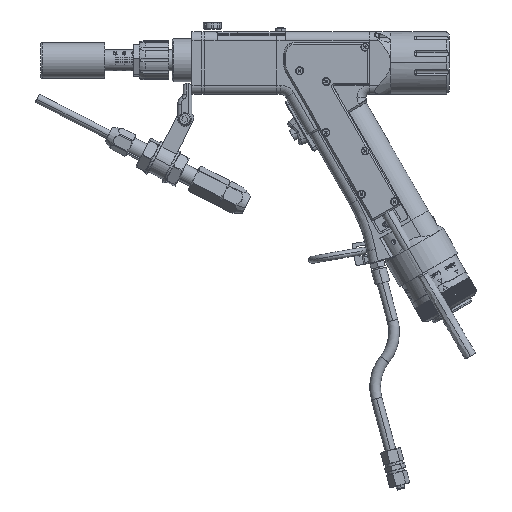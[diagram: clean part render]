
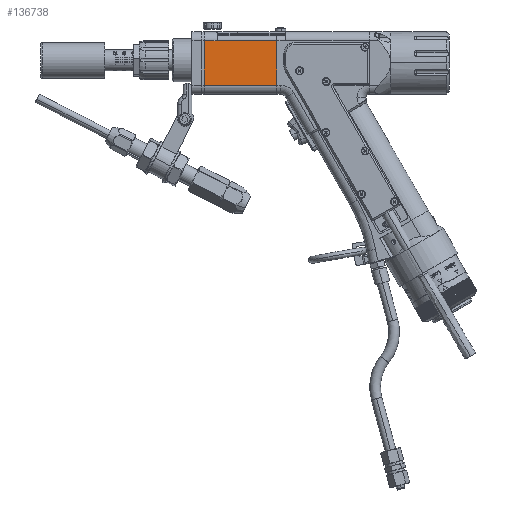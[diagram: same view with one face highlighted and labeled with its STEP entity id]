
A CAD part, top view. The second image highlights one B-rep face of the part: STEP entity #136738.
In plain terms, the highlighted planar face has unit normal (0, 0, 1).
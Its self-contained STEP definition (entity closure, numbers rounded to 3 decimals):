
#7300 = VECTOR ( 'NONE', #163788, 1000. ) ;
#9398 = VERTEX_POINT ( 'NONE', #68928 ) ;
#10627 = VERTEX_POINT ( 'NONE', #89156 ) ;
#16271 = DIRECTION ( 'NONE',  ( 1., 0., 0. ) ) ;
#18142 = VECTOR ( 'NONE', #170211, 1000. ) ;
#19134 = VECTOR ( 'NONE', #50856, 1000. ) ;
#34344 = ORIENTED_EDGE ( 'NONE', *, *, #177818, .T. ) ;
#42306 = LINE ( 'NONE', #89363, #51801 ) ;
#42689 = CARTESIAN_POINT ( 'NONE',  ( 47.7, 0., 0. ) ) ;
#48776 = LINE ( 'NONE', #125216, #18142 ) ;
#50856 = DIRECTION ( 'NONE',  ( -1., 0., 0. ) ) ;
#51801 = VECTOR ( 'NONE', #103243, 1000. ) ;
#52223 = LINE ( 'NONE', #119444, #7300 ) ;
#66970 = CARTESIAN_POINT ( 'NONE',  ( 7., 0., 0. ) ) ;
#68928 = CARTESIAN_POINT ( 'NONE',  ( 7., -5., 0. ) ) ;
#71039 = VERTEX_POINT ( 'NONE', #145497 ) ;
#72806 = VERTEX_POINT ( 'NONE', #88153 ) ;
#73365 = EDGE_CURVE ( 'NONE', #115326, #10627, #52223, .T. ) ;
#75874 = CARTESIAN_POINT ( 'NONE',  ( 47.7, -5., 0. ) ) ;
#87116 = LINE ( 'NONE', #66970, #108381 ) ;
#88153 = CARTESIAN_POINT ( 'NONE',  ( 7., -30., 0. ) ) ;
#89156 = CARTESIAN_POINT ( 'NONE',  ( 47.7, -30., 0. ) ) ;
#89363 = CARTESIAN_POINT ( 'NONE',  ( 47.7, -5., 0. ) ) ;
#103243 = DIRECTION ( 'NONE',  ( -1., 0., 0. ) ) ;
#108381 = VECTOR ( 'NONE', #113225, 1000. ) ;
#112795 = ORIENTED_EDGE ( 'NONE', *, *, #73365, .F. ) ;
#113225 = DIRECTION ( 'NONE',  ( 0., -1., 0. ) ) ;
#115326 = VERTEX_POINT ( 'NONE', #75874 ) ;
#116708 = PLANE ( 'NONE',  #156511 ) ;
#119444 = CARTESIAN_POINT ( 'NONE',  ( 47.7, 0., 0. ) ) ;
#121510 = FACE_OUTER_BOUND ( 'NONE', #156484, .T. ) ;
#125216 = CARTESIAN_POINT ( 'NONE',  ( 47.7, -30., 0. ) ) ;
#130344 = ORIENTED_EDGE ( 'NONE', *, *, #193334, .T. ) ;
#136738 = ADVANCED_FACE ( 'NONE', ( #121510 ), #116708, .F. ) ;
#137115 = DIRECTION ( 'NONE',  ( 0., 0., -1. ) ) ;
#140108 = CARTESIAN_POINT ( 'NONE',  ( 47.7, -5., 0. ) ) ;
#145497 = CARTESIAN_POINT ( 'NONE',  ( 14.2, -5., 0. ) ) ;
#156484 = EDGE_LOOP ( 'NONE', ( #191258, #195198, #34344, #130344, #112795 ) ) ;
#156511 = AXIS2_PLACEMENT_3D ( 'NONE', #42689, #137115, #16271 ) ;
#158516 = LINE ( 'NONE', #140108, #19134 ) ;
#161137 = EDGE_CURVE ( 'NONE', #115326, #71039, #158516, .T. ) ;
#163788 = DIRECTION ( 'NONE',  ( 0., -1., 0. ) ) ;
#167906 = EDGE_CURVE ( 'NONE', #71039, #9398, #42306, .T. ) ;
#170211 = DIRECTION ( 'NONE',  ( 1., 0., 0. ) ) ;
#177818 = EDGE_CURVE ( 'NONE', #9398, #72806, #87116, .T. ) ;
#191258 = ORIENTED_EDGE ( 'NONE', *, *, #161137, .T. ) ;
#193334 = EDGE_CURVE ( 'NONE', #72806, #10627, #48776, .T. ) ;
#195198 = ORIENTED_EDGE ( 'NONE', *, *, #167906, .T. ) ;
